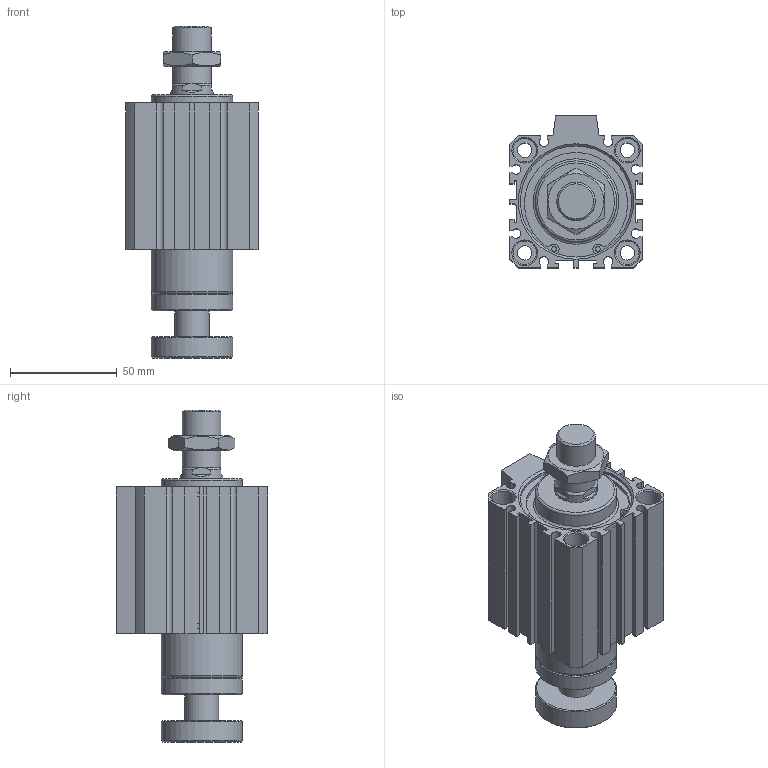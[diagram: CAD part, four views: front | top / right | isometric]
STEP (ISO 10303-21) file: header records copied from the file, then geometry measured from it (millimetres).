
FILE_DESCRIPTION((''),'2;1');
FILE_NAME('I:\3D電子目錄\氣缸\JDAR\JDAR-BS\JDAR50-BS\JDAR50x30-BS.stp','2007-05-05T14:18:24',('662F206'),(''),'Autodesk Inventor 11','Autodesk Inventor 11','');
FILE_SCHEMA(('AUTOMOTIVE_DESIGN { 1 0 10303 214 1 1 1 1 }'));
Length unit declared in the file: millimetre
Products named in the file (3): JDAR50-BS; R 形環 52
Assembly tree (3 placements, depth 2):
  JDAR50-BS
    JDAR50-BS
    R 形環 52  x2
Bounding box: 62 x 71 x 155.3 mm (x, y, z)
Volume: 290651.7 mm3; surface area: 58609.3 mm2
Topology: 3 solids, 3 shells, 204 faces, 493 edges, 321 vertices
Faces by surface type: plane 119, cylinder 56, cone 25, bspline 2, torus 2
Full cylindrical faces by diameter (mm): 2.3 x4, 2.7 x2, 6.8 x4, 11 x8, 16 x1, 18 x2, 20 x1, 38 x4, 52 x4, 55 x2
Entity records: 5422 total; most frequent: CARTESIAN_POINT 1023, DIRECTION 907, ORIENTED_EDGE 804, EDGE_CURVE 402, AXIS2_PLACEMENT_3D 329, VERTEX_POINT 295, EDGE_LOOP 285, VECTOR 249
